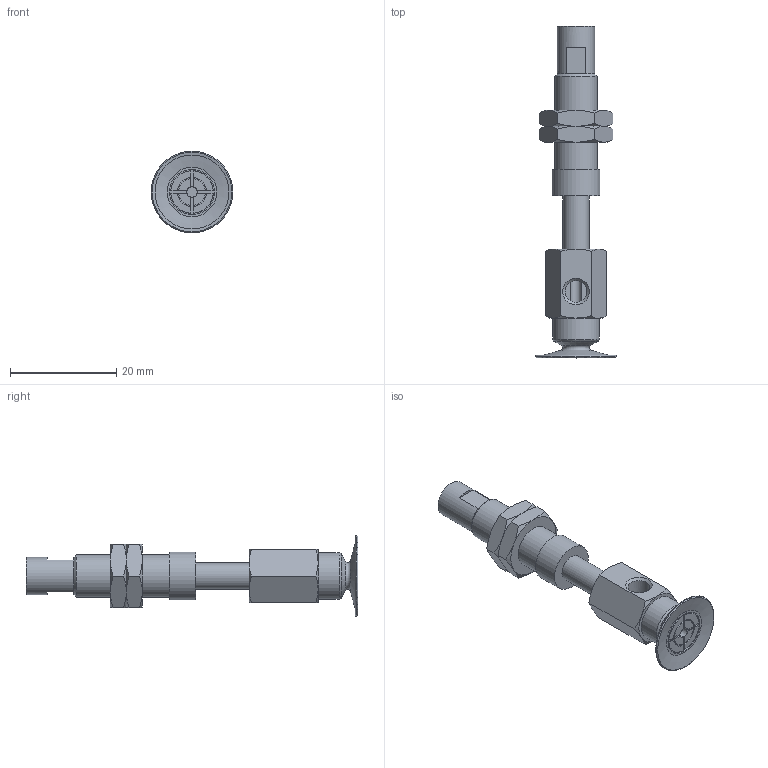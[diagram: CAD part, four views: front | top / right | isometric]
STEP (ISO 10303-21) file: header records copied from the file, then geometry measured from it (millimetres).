
FILE_DESCRIPTION(('STEP AP203'),'1');
FILE_NAME('.stp','2025-02-14T01:14:12',(' '),(' '),'Spatial InterOp 3D',' ',' ');
FILE_SCHEMA(('CONFIG_CONTROL_DESIGN'));
Length unit declared in the file: millimetre
Products named in the file (6): BNABPAYS-15B-10-※; NAPAYS-10A-10--M; NAPAYS-10A-10--F; Nut-10A-S; CONNECTOR-10A-10-PA; BPAG-15B-※_3D
Assembly tree (6 placements, depth 2):
  BNABPAYS-15B-10-※
    NAPAYS-10A-10--M
    NAPAYS-10A-10--F
    Nut-10A-S  x2
    CONNECTOR-10A-10-PA
    BPAG-15B-※_3D
Bounding box: 15.4 x 62.5 x 15.4 mm (x, y, z)
Volume: 3521.9 mm3; surface area: 4431.3 mm2
Topology: 6 solids, 6 shells, 171 faces, 381 edges, 231 vertices
Faces by surface type: plane 71, cone 60, cylinder 30, torus 10
Full cylindrical faces by diameter (mm): 2 x2, 4 x2, 4.134 x2, 5 x3, 6 x2, 7 x1, 7.188 x2, 8 x1, 8.5 x1, 8.7 x1, 9 x1
Entity records: 4392 total; most frequent: CARTESIAN_POINT 1056, DIRECTION 636, ORIENTED_EDGE 564, EDGE_CURVE 282, AXIS2_PLACEMENT_3D 268, EDGE_LOOP 206, VERTEX_POINT 192, FACE_OUTER_BOUND 175
